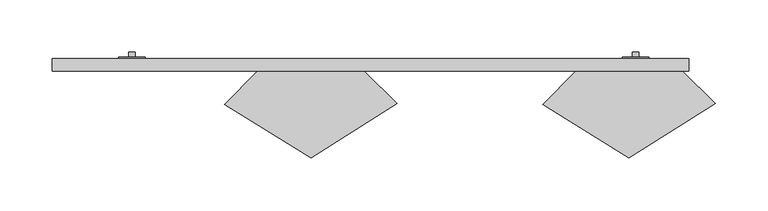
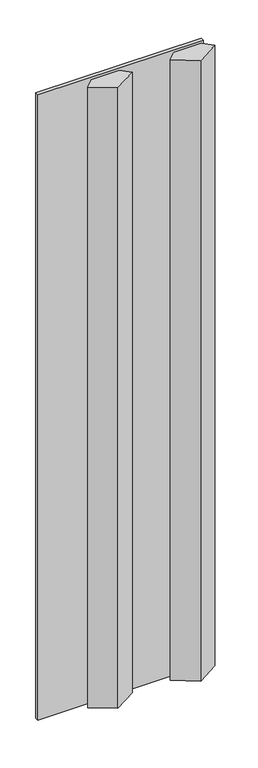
"""IFC4 building model written with IfcOpenShell, lengths in millimetres: proxy geometry, Arktura-SoundForm-Peak-RFA : Arktura-SoundForm-Peak-RFA."""

from ifc_helpers import new_model, si_unit, point, frame, frame_2d, origin, origin_with_axes, place, context, project, spatial, polyline, circle_curve, trimmed, segment, composite_curve, outline, extrude, source, transform, mapped, element, save


def generic_models_a6065856(model_context):
    return source(origin(), model_context, "Body", "SweptSolid", [
        extrude(outline(polyline([(558.8, -31.75), (533.4, -31.75), (533.4, -30.3215536), (558.8, -30.3215536), (558.8, -31.75)])), frame((0.0, 0.0, 1206.5), z_axis=(0.0, 0.0, 1.0), x_axis=(1.0, 0.0, 0.0)), (0.0, 0.0, 1.0), 25.4),
        extrude(outline(composite_curve([segment(trimmed(circle_curve(frame_2d((1219.2, 546.1)), 3.175), [point((1219.2, 542.925))], [point((1219.2, 549.275))], False, "CARTESIAN"), True, "CONTINUOUS"), segment(trimmed(circle_curve(frame_2d((1219.2, 546.1)), 3.175), [point((1219.2, 549.275))], [point((1219.2, 542.925))], False, "CARTESIAN"), True, "CONTINUOUS")], self_intersect=False)), frame((0.0, -30.3215536, 0.0), z_axis=(0.0, 1.0, 0.0), x_axis=(0.0, 0.0, 1.0)), (0.0, 0.0, 1.0), 4.9215536),
        extrude(outline(polyline([(76.2, -31.75), (50.8, -31.75), (50.8, -30.3215536), (76.2, -30.3215536), (76.2, -31.75)])), frame((0.0, 0.0, 1206.5), z_axis=(0.0, 0.0, 1.0), x_axis=(1.0, 0.0, 0.0)), (0.0, 0.0, 1.0), 25.4),
        extrude(outline(composite_curve([segment(trimmed(circle_curve(frame_2d((1219.2, 63.5)), 3.175), [point((1219.2, 60.325))], [point((1219.2, 66.675))], False, "CARTESIAN"), True, "CONTINUOUS"), segment(trimmed(circle_curve(frame_2d((1219.2, 63.5)), 3.175), [point((1219.2, 66.675))], [point((1219.2, 60.325))], False, "CARTESIAN"), True, "CONTINUOUS")], self_intersect=False)), frame((0.0, -30.3215536, 0.0), z_axis=(0.0, 1.0, 0.0), x_axis=(0.0, 0.0, 1.0)), (0.0, 0.0, 1.0), 4.9215536),
        extrude(outline(polyline([(558.8, -31.75), (533.4, -31.75), (533.4, -30.3215536), (558.8, -30.3215536), (558.8, -31.75)])), frame((0.0, 0.0, 2352.675), z_axis=(0.0, 0.0, 1.0), x_axis=(1.0, 0.0, 0.0)), (0.0, 0.0, 1.0), 25.4),
        extrude(outline(composite_curve([segment(trimmed(circle_curve(frame_2d((2365.375, 546.1)), 3.175), [point((2365.375, 542.925))], [point((2365.375, 549.275))], False, "CARTESIAN"), True, "CONTINUOUS"), segment(trimmed(circle_curve(frame_2d((2365.375, 546.1)), 3.175), [point((2365.375, 549.275))], [point((2365.375, 542.925))], False, "CARTESIAN"), True, "CONTINUOUS")], self_intersect=False)), frame((0.0, -30.3215536, 0.0), z_axis=(0.0, 1.0, 0.0), x_axis=(0.0, 0.0, 1.0)), (0.0, 0.0, 1.0), 4.9215536),
        extrude(outline(polyline([(76.2, -31.75), (50.8, -31.75), (50.8, -30.3215536), (76.2, -30.3215536), (76.2, -31.75)])), frame((0.0, 0.0, 2352.675), z_axis=(0.0, 0.0, 1.0), x_axis=(1.0, 0.0, 0.0)), (0.0, 0.0, 1.0), 25.4),
        extrude(outline(composite_curve([segment(trimmed(circle_curve(frame_2d((2365.375, 63.5)), 3.175), [point((2365.375, 60.325))], [point((2365.375, 66.675))], False, "CARTESIAN"), True, "CONTINUOUS"), segment(trimmed(circle_curve(frame_2d((2365.375, 63.5)), 3.175), [point((2365.375, 66.675))], [point((2365.375, 60.325))], False, "CARTESIAN"), True, "CONTINUOUS")], self_intersect=False)), frame((0.0, -30.3215536, 0.0), z_axis=(0.0, 1.0, 0.0), x_axis=(0.0, 0.0, 1.0)), (0.0, 0.0, 1.0), 4.9215536),
        extrude(outline(polyline([(558.8, -31.75), (533.4, -31.75), (533.4, -30.3215536), (558.8, -30.3215536), (558.8, -31.75)])), frame((0.0, 0.0, 60.325), z_axis=(0.0, 0.0, 1.0), x_axis=(1.0, 0.0, 0.0)), (0.0, 0.0, 1.0), 25.4),
        extrude(outline(composite_curve([segment(trimmed(circle_curve(frame_2d((73.025, 546.1)), 3.175), [point((73.025, 542.925))], [point((73.025, 549.275))], False, "CARTESIAN"), True, "CONTINUOUS"), segment(trimmed(circle_curve(frame_2d((73.025, 546.1)), 3.175), [point((73.025, 549.275))], [point((73.025, 542.925))], False, "CARTESIAN"), True, "CONTINUOUS")], self_intersect=False)), frame((0.0, -30.3215536, 0.0), z_axis=(0.0, 1.0, 0.0), x_axis=(0.0, 0.0, 1.0)), (0.0, 0.0, 1.0), 4.9215536),
        extrude(outline(polyline([(76.2, -31.75), (50.8, -31.75), (50.8, -30.3215536), (76.2, -30.3215536), (76.2, -31.75)])), frame((0.0, 0.0, 60.325), z_axis=(0.0, 0.0, 1.0), x_axis=(1.0, 0.0, 0.0)), (0.0, 0.0, 1.0), 25.4),
        extrude(outline(composite_curve([segment(trimmed(circle_curve(frame_2d((73.025, 63.5)), 3.175), [point((73.025, 60.325))], [point((73.025, 66.675))], False, "CARTESIAN"), True, "CONTINUOUS"), segment(trimmed(circle_curve(frame_2d((73.025, 63.5)), 3.175), [point((73.025, 66.675))], [point((73.025, 60.325))], False, "CARTESIAN"), True, "CONTINUOUS")], self_intersect=False)), frame((0.0, -30.3215536, 0.0), z_axis=(0.0, 1.0, 0.0), x_axis=(0.0, 0.0, 1.0)), (0.0, 0.0, 1.0), 4.9215536),
        extrude(outline(polyline([(-12.7, -43.749976), (-12.7, -31.75), (596.9, -31.75), (596.9, -43.749976), (-12.7, -43.749976)])), origin_with_axes(), (0.0, 0.0, 1.0), 2438.4),
        extrude(outline(polyline([(539.75, -43.7499999), (590.5500179, -43.7499999), (622.3, -74.9283805), (539.75, -127.0), (457.2, -75.499982), (488.9499821, -43.7499999), (539.75, -43.7499999)])), frame((0.0, 0.0, 9.525), z_axis=(0.0, 0.0, 1.0), x_axis=(1.0, 0.0, 0.0)), (0.0, 0.0, 1.0), 2419.35),
        extrude(outline(polyline([(234.95, -43.7499999), (285.7500179, -43.7499999), (317.5, -74.9283805), (234.95, -127.0), (152.4, -75.499982), (184.1499821, -43.7499999), (234.95, -43.7499999)])), frame((0.0, 0.0, 9.525), z_axis=(0.0, 0.0, 1.0), x_axis=(1.0, 0.0, 0.0)), (0.0, 0.0, 1.0), 2419.35),
    ])


if __name__ == "__main__":
    model = new_model("IFC4")
    model_context = context("Model", 3, world=origin())
    ifc_project = project(units=[si_unit("LENGTHUNIT", "METRE", prefix="MILLI")], contexts=[model_context])
    site = spatial("IfcSite", under=ifc_project)
    building = spatial("IfcBuilding", under=site)
    placement = place(None, origin())
    generic_models_shape = generic_models_a6065856(model_context)
    element("IfcBuildingElementProxy", 1, Name="Arktura-SoundForm-Peak-RFA : Arktura-SoundForm-Peak-RFA", ObjectType="Arktura-SoundForm-Peak-RFA : Arktura-SoundForm-Peak-RFA", at=placement, inside=building, context=model_context, shape_type="MappedRepresentation", body=[
        mapped(generic_models_shape, transform((0.0, 0.0, 0.0), x_axis=(1.0, 0.0, 0.0), y_axis=(0.0, 1.0, 0.0), z_axis=(0.0, 0.0, 1.0))),
    ])
    save(model, "model.ifc")
